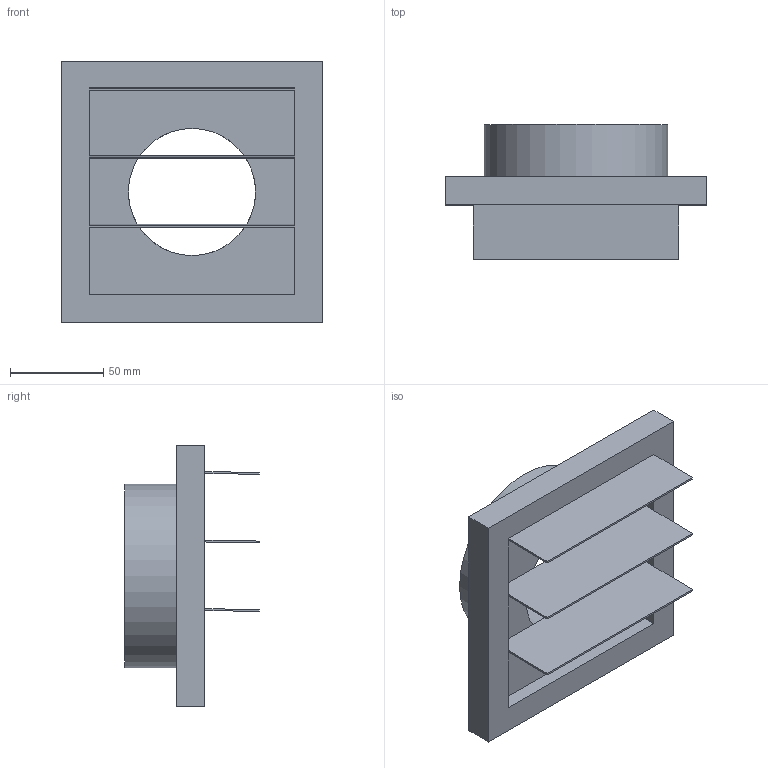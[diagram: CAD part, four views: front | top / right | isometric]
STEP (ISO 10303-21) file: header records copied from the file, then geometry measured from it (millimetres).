
FILE_DESCRIPTION(/* description */ (''),/* implementation_level */ '2;1');
FILE_NAME(/* name */ 'Z:\Output\VK_100_B-00765-001.stp',/* time_stamp */ '2017-09-29T10:59:49+02:00',/* author */ ('pareshmistry'),/* organization */ (''),/* preprocessor_version */ 'ST-DEVELOPER v16.5',/* originating_system */ 'Autodesk Inventor 2017',/* authorisation */ '');
FILE_SCHEMA (('AUTOMOTIVE_DESIGN { 1 0 10303 214 3 1 1 }'));
Length unit declared in the file: millimetre
Products named in the file (1): VK-3
Bounding box: 140 x 72.18 x 140 mm (x, y, z)
Volume: 296858.1 mm3; surface area: 82991.2 mm2
Topology: 1 solids, 1 shells, 37 faces, 92 edges, 54 vertices
Faces by surface type: plane 35, cylinder 2
Full cylindrical faces by diameter (mm): 68 x1, 98 x1
Entity records: 1088 total; most frequent: ORIENTED_EDGE 186, CARTESIAN_POINT 180, DIRECTION 172, EDGE_CURVE 89, LINE 82, VECTOR 82, VERTEX_POINT 53, AXIS2_PLACEMENT_3D 45
